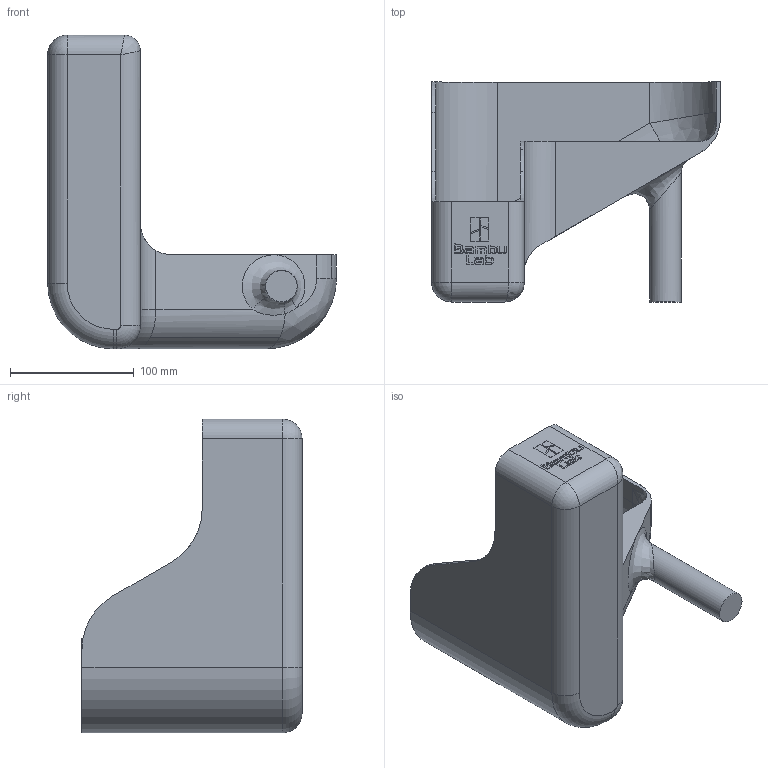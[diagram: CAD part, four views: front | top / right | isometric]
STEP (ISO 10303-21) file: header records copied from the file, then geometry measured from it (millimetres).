
FILE_DESCRIPTION (( 'STEP AP214' ), '1' );
FILE_NAME ('POOPY_SHOE_Shortened_Narrower_STEP.STEP', '2023-03-03T12:43:09', ( '' ), ( '' ), 'SwSTEP 2.0', 'SolidWorks 2022', '' );
FILE_SCHEMA (( 'AUTOMOTIVE_DESIGN' ));
Length unit declared in the file: millimetre
Products named in the file (1): POOPY_SHOE_Shortened_Narrower_STEP
Bounding box: 233.75 x 178.2 x 254 mm (x, y, z)
Volume: 451504.5 mm3; surface area: 234080.1 mm2
Topology: 1 solids, 1 shells, 244 faces, 648 edges, 419 vertices
Faces by surface type: bspline 122, plane 75, cylinder 39, torus 6, sphere 2
Entity records: 9858 total; most frequent: CARTESIAN_POINT 4671, ORIENTED_EDGE 1286, EDGE_CURVE 643, DIRECTION 604, VERTEX_POINT 419, B_SPLINE_CURVE_WITH_KNOTS 334, EDGE_LOOP 262, ADVANCED_FACE 244
